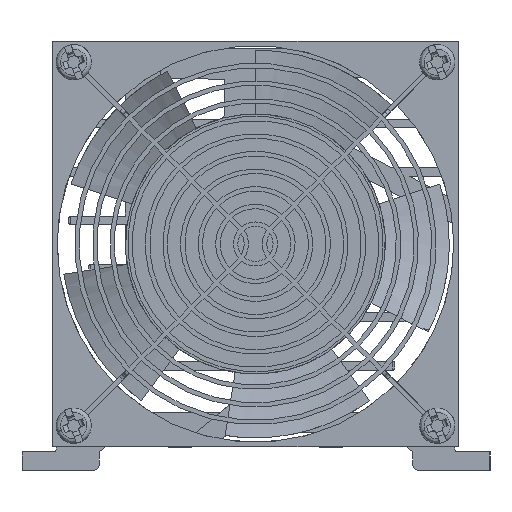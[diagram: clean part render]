
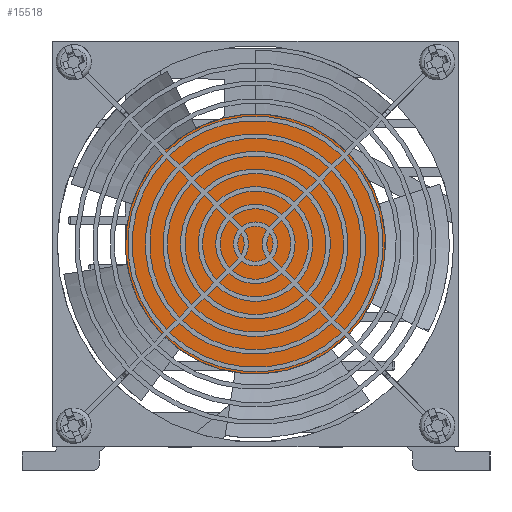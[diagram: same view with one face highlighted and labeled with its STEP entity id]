
A CAD part, left-side view. The second image highlights one B-rep face of the part: STEP entity #15518.
In plain terms, the highlighted planar face has unit normal (-1, 0, 0).
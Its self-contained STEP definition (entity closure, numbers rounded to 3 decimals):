
#1925 = VERTEX_POINT ( 'NONE', #27813 ) ;
#2845 = CARTESIAN_POINT ( 'NONE',  ( 4., 53.225, 51.461 ) ) ;
#2888 = ORIENTED_EDGE ( 'NONE', *, *, #4368, .F. ) ;
#3710 = CARTESIAN_POINT ( 'NONE',  ( 4., 53.225, 51.461 ) ) ;
#4368 = EDGE_CURVE ( 'NONE', #11006, #1925, #23564, .T. ) ;
#7771 = AXIS2_PLACEMENT_3D ( 'NONE', #2845, #15547, #13685 ) ;
#7817 = EDGE_CURVE ( 'NONE', #1925, #11006, #21879, .T. ) ;
#11006 = VERTEX_POINT ( 'NONE', #26942 ) ;
#11226 = AXIS2_PLACEMENT_3D ( 'NONE', #15961, #22679, #17960 ) ;
#12828 = DIRECTION ( 'NONE',  ( 0., 0.9, 0.436 ) ) ;
#12918 = AXIS2_PLACEMENT_3D ( 'NONE', #3710, #27830, #12828 ) ;
#13685 = DIRECTION ( 'NONE',  ( 0., -0.9, -0.436 ) ) ;
#14966 = PLANE ( 'NONE',  #12918 ) ;
#15518 = ADVANCED_FACE ( 'NONE', ( #19120 ), #14966, .F. ) ;
#15547 = DIRECTION ( 'NONE',  ( 1., 0., 0. ) ) ;
#15961 = CARTESIAN_POINT ( 'NONE',  ( 4., 53.225, 51.461 ) ) ;
#17960 = DIRECTION ( 'NONE',  ( 0., -0.9, -0.436 ) ) ;
#19120 = FACE_OUTER_BOUND ( 'NONE', #24935, .T. ) ;
#21879 = CIRCLE ( 'NONE', #7771, 29.5 ) ;
#22679 = DIRECTION ( 'NONE',  ( 1., 0., 0. ) ) ;
#23564 = CIRCLE ( 'NONE', #11226, 29.5 ) ;
#24873 = ORIENTED_EDGE ( 'NONE', *, *, #7817, .F. ) ;
#24935 = EDGE_LOOP ( 'NONE', ( #2888, #24873 ) ) ;
#26942 = CARTESIAN_POINT ( 'NONE',  ( 4., 79.77, 64.329 ) ) ;
#27813 = CARTESIAN_POINT ( 'NONE',  ( 4., 26.679, 38.594 ) ) ;
#27830 = DIRECTION ( 'NONE',  ( 1., 0., 0. ) ) ;
